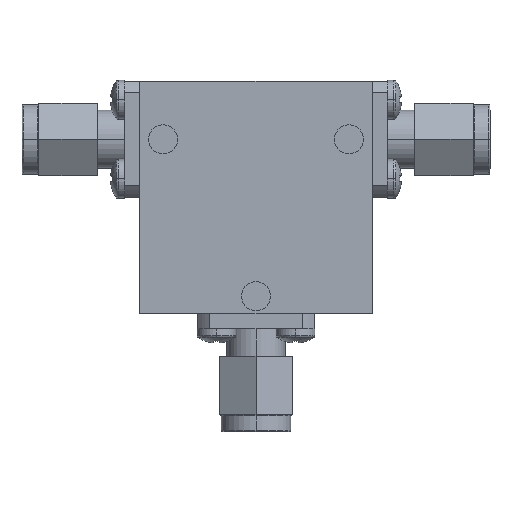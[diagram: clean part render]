
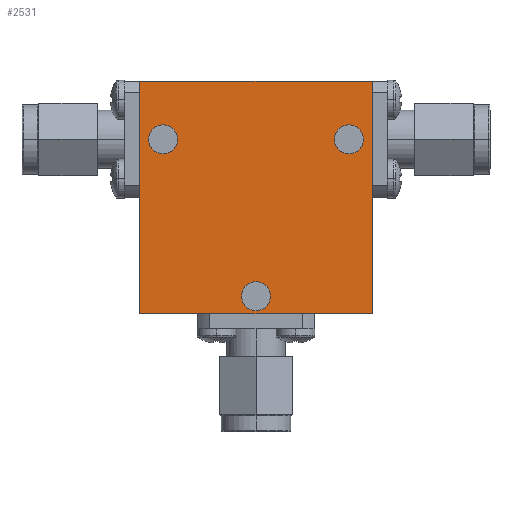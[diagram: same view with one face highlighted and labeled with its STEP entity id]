
A CAD part, top view. The second image highlights one B-rep face of the part: STEP entity #2531.
In plain terms, the highlighted planar face has unit normal (0, 0, 1).
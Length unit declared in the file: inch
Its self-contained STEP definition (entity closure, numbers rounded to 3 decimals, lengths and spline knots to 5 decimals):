
#19 = CIRCLE ( 'NONE', #2949, 0.0625 ) ;
#59 = VERTEX_POINT ( 'NONE', #242 ) ;
#60 = CARTESIAN_POINT ( 'NONE',  ( -0.5, -0.5, 0.25 ) ) ;
#80 = LINE ( 'NONE', #128, #1934 ) ;
#125 = AXIS2_PLACEMENT_3D ( 'NONE', #2448, #3203, #905 ) ;
#128 = CARTESIAN_POINT ( 'NONE',  ( -0.5, 0.5, 0.25 ) ) ;
#237 = LINE ( 'NONE', #2182, #1250 ) ;
#242 = CARTESIAN_POINT ( 'NONE',  ( -0.5, 0.5, 0.25 ) ) ;
#289 = CARTESIAN_POINT ( 'NONE',  ( 0.5, 0.5, 0.25 ) ) ;
#307 = EDGE_CURVE ( 'NONE', #1790, #1511, #19, .T. ) ;
#351 = ORIENTED_EDGE ( 'NONE', *, *, #307, .F. ) ;
#379 = CARTESIAN_POINT ( 'NONE',  ( 0.3375, 0.25, 0.25 ) ) ;
#390 = AXIS2_PLACEMENT_3D ( 'NONE', #2510, #2298, #1760 ) ;
#450 = CARTESIAN_POINT ( 'NONE',  ( -0.4, 0.25, 0.25 ) ) ;
#458 = EDGE_CURVE ( 'NONE', #2201, #1068, #661, .T. ) ;
#510 = ORIENTED_EDGE ( 'NONE', *, *, #1907, .F. ) ;
#556 = ORIENTED_EDGE ( 'NONE', *, *, #458, .T. ) ;
#559 = DIRECTION ( 'NONE',  ( 1., 0., 0. ) ) ;
#565 = VECTOR ( 'NONE', #827, 39.37008 ) ;
#567 = EDGE_CURVE ( 'NONE', #1511, #1790, #2874, .T. ) ;
#569 = CARTESIAN_POINT ( 'NONE',  ( 0., 0., 0.25 ) ) ;
#577 = ORIENTED_EDGE ( 'NONE', *, *, #3006, .T. ) ;
#618 = DIRECTION ( 'NONE',  ( -1., 0., 0. ) ) ;
#623 = ORIENTED_EDGE ( 'NONE', *, *, #2704, .T. ) ;
#661 = LINE ( 'NONE', #2730, #3305 ) ;
#703 = DIRECTION ( 'NONE',  ( 1., 0., 0. ) ) ;
#752 = CARTESIAN_POINT ( 'NONE',  ( 0.5, -0.5, 0.25 ) ) ;
#775 = CARTESIAN_POINT ( 'NONE',  ( -0.0625, -0.425, 0.25 ) ) ;
#824 = EDGE_LOOP ( 'NONE', ( #1202, #1614 ) ) ;
#827 = DIRECTION ( 'NONE',  ( 1., 0., 0. ) ) ;
#850 = FACE_OUTER_BOUND ( 'NONE', #924, .T. ) ;
#864 = CARTESIAN_POINT ( 'NONE',  ( -0.4, 0.25, 0.25 ) ) ;
#892 = FACE_BOUND ( 'NONE', #824, .T. ) ;
#905 = DIRECTION ( 'NONE',  ( 1., 0., 0. ) ) ;
#924 = EDGE_LOOP ( 'NONE', ( #556, #577, #2357, #623 ) ) ;
#996 = DIRECTION ( 'NONE',  ( 1., 0., 0. ) ) ;
#1010 = AXIS2_PLACEMENT_3D ( 'NONE', #3065, #3277, #996 ) ;
#1046 = VERTEX_POINT ( 'NONE', #2593 ) ;
#1065 = DIRECTION ( 'NONE',  ( 1., 0., 0. ) ) ;
#1068 = VERTEX_POINT ( 'NONE', #289 ) ;
#1166 = EDGE_LOOP ( 'NONE', ( #1892, #510 ) ) ;
#1202 = ORIENTED_EDGE ( 'NONE', *, *, #1613, .F. ) ;
#1250 = VECTOR ( 'NONE', #2946, 39.37008 ) ;
#1289 = CARTESIAN_POINT ( 'NONE',  ( 0., -0.425, 0.25 ) ) ;
#1328 = CIRCLE ( 'NONE', #2275, 0.0625 ) ;
#1380 = CARTESIAN_POINT ( 'NONE',  ( -0.3375, 0.25, 0.25 ) ) ;
#1442 = AXIS2_PLACEMENT_3D ( 'NONE', #569, #1584, #559 ) ;
#1511 = VERTEX_POINT ( 'NONE', #2799 ) ;
#1519 = EDGE_CURVE ( 'NONE', #2572, #2727, #2590, .T. ) ;
#1584 = DIRECTION ( 'NONE',  ( 0., 0., 1. ) ) ;
#1613 = EDGE_CURVE ( 'NONE', #2727, #2572, #1328, .T. ) ;
#1614 = ORIENTED_EDGE ( 'NONE', *, *, #1519, .F. ) ;
#1670 = DIRECTION ( 'NONE',  ( 0., 0., 1. ) ) ;
#1737 = CIRCLE ( 'NONE', #390, 0.0625 ) ;
#1760 = DIRECTION ( 'NONE',  ( 1., 0., 0. ) ) ;
#1769 = VERTEX_POINT ( 'NONE', #3152 ) ;
#1790 = VERTEX_POINT ( 'NONE', #1380 ) ;
#1892 = ORIENTED_EDGE ( 'NONE', *, *, #3290, .F. ) ;
#1907 = EDGE_CURVE ( 'NONE', #3012, #1769, #2702, .T. ) ;
#1934 = VECTOR ( 'NONE', #618, 39.37008 ) ;
#2129 = CARTESIAN_POINT ( 'NONE',  ( 0.0625, -0.425, 0.25 ) ) ;
#2182 = CARTESIAN_POINT ( 'NONE',  ( -0.5, 0.5, 0.25 ) ) ;
#2201 = VERTEX_POINT ( 'NONE', #752 ) ;
#2275 = AXIS2_PLACEMENT_3D ( 'NONE', #1289, #2324, #1065 ) ;
#2298 = DIRECTION ( 'NONE',  ( 0., 0., 1. ) ) ;
#2324 = DIRECTION ( 'NONE',  ( 0., 0., 1. ) ) ;
#2341 = PLANE ( 'NONE',  #1442 ) ;
#2357 = ORIENTED_EDGE ( 'NONE', *, *, #2853, .T. ) ;
#2432 = DIRECTION ( 'NONE',  ( 1., 0., 0. ) ) ;
#2448 = CARTESIAN_POINT ( 'NONE',  ( 0.4, 0.25, 0.25 ) ) ;
#2460 = LINE ( 'NONE', #60, #565 ) ;
#2510 = CARTESIAN_POINT ( 'NONE',  ( 0.4, 0.25, 0.25 ) ) ;
#2531 = ADVANCED_FACE ( 'NONE', ( #2856, #892, #3099, #850 ), #2341, .T. ) ;
#2572 = VERTEX_POINT ( 'NONE', #775 ) ;
#2590 = CIRCLE ( 'NONE', #1010, 0.0625 ) ;
#2593 = CARTESIAN_POINT ( 'NONE',  ( -0.5, -0.5, 0.25 ) ) ;
#2621 = ORIENTED_EDGE ( 'NONE', *, *, #567, .F. ) ;
#2702 = CIRCLE ( 'NONE', #125, 0.0625 ) ;
#2704 = EDGE_CURVE ( 'NONE', #1046, #2201, #2460, .T. ) ;
#2727 = VERTEX_POINT ( 'NONE', #2129 ) ;
#2730 = CARTESIAN_POINT ( 'NONE',  ( 0.5, 0.5, 0.25 ) ) ;
#2799 = CARTESIAN_POINT ( 'NONE',  ( -0.4625, 0.25, 0.25 ) ) ;
#2853 = EDGE_CURVE ( 'NONE', #59, #1046, #237, .T. ) ;
#2856 = FACE_BOUND ( 'NONE', #1166, .T. ) ;
#2874 = CIRCLE ( 'NONE', #3274, 0.0625 ) ;
#2946 = DIRECTION ( 'NONE',  ( 0., -1., 0. ) ) ;
#2949 = AXIS2_PLACEMENT_3D ( 'NONE', #864, #1670, #2432 ) ;
#2956 = DIRECTION ( 'NONE',  ( 0., 1., 0. ) ) ;
#3006 = EDGE_CURVE ( 'NONE', #1068, #59, #80, .T. ) ;
#3012 = VERTEX_POINT ( 'NONE', #379 ) ;
#3065 = CARTESIAN_POINT ( 'NONE',  ( 0., -0.425, 0.25 ) ) ;
#3078 = EDGE_LOOP ( 'NONE', ( #351, #2621 ) ) ;
#3099 = FACE_BOUND ( 'NONE', #3078, .T. ) ;
#3152 = CARTESIAN_POINT ( 'NONE',  ( 0.4625, 0.25, 0.25 ) ) ;
#3203 = DIRECTION ( 'NONE',  ( 0., 0., 1. ) ) ;
#3269 = DIRECTION ( 'NONE',  ( 0., 0., 1. ) ) ;
#3274 = AXIS2_PLACEMENT_3D ( 'NONE', #450, #3269, #703 ) ;
#3277 = DIRECTION ( 'NONE',  ( 0., 0., 1. ) ) ;
#3290 = EDGE_CURVE ( 'NONE', #1769, #3012, #1737, .T. ) ;
#3305 = VECTOR ( 'NONE', #2956, 39.37008 ) ;
